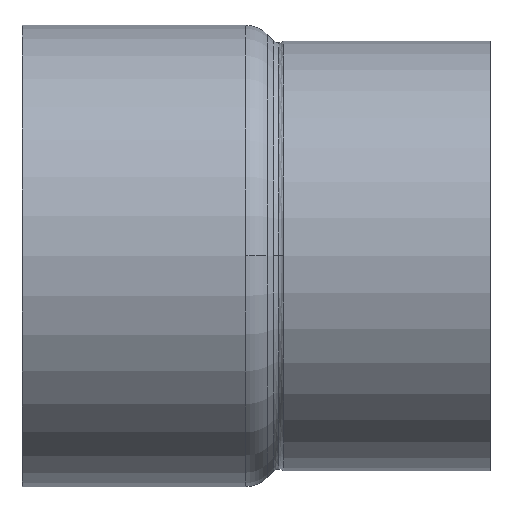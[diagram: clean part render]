
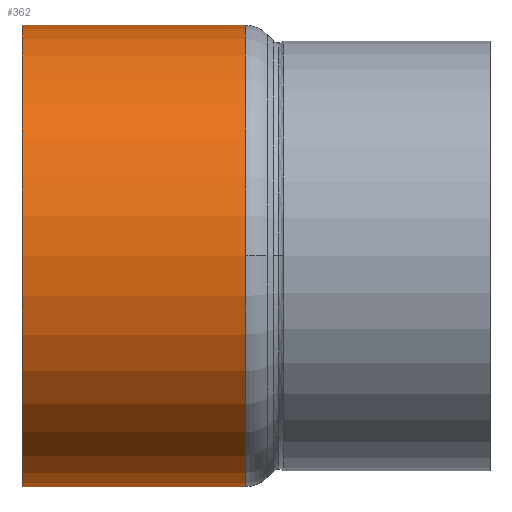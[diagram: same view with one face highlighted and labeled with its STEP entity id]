
A CAD part, top view. The second image highlights one B-rep face of the part: STEP entity #362.
In plain terms, the highlighted cylindrical face has radius 38.05 mm (diameter 76.1 mm), a partial arc.
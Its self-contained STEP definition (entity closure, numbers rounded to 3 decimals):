
#312=CARTESIAN_POINT('',(18.44,0.0,0.0));
#313=DIRECTION('',(1.0,0.0,0.0));
#314=DIRECTION('',(0.0,1.0,0.0));
#315=AXIS2_PLACEMENT_3D('',#312,#313,#314);
#316=CYLINDRICAL_SURFACE('',#315,38.05);
#317=CARTESIAN_POINT('',(0.,38.05,0.0));
#318=VERTEX_POINT('',#317);
#319=CARTESIAN_POINT('',(36.879,38.05,0.0));
#320=VERTEX_POINT('',#319);
#321=CARTESIAN_POINT('',(0.,38.05,0.0));
#322=DIRECTION('',(1.0,0.0,0.0));
#323=VECTOR('',#322,36.879);
#324=LINE('',#321,#323);
#325=EDGE_CURVE('',#318,#320,#324,.T.);
#326=ORIENTED_EDGE('',*,*,#325,.F.);
#327=CARTESIAN_POINT('',(0.,-38.05,0.));
#328=VERTEX_POINT('',#327);
#329=CARTESIAN_POINT('',(0.,0.0,0.0));
#330=DIRECTION('',(1.0,0.0,0.0));
#331=DIRECTION('',(0.0,1.0,0.0));
#332=AXIS2_PLACEMENT_3D('',#329,#330,#331);
#333=CIRCLE('',#332,38.05);
#334=EDGE_CURVE('',#318,#328,#333,.T.);
#335=ORIENTED_EDGE('',*,*,#334,.T.);
#336=CARTESIAN_POINT('',(36.879,-38.05,0.));
#337=VERTEX_POINT('',#336);
#338=CARTESIAN_POINT('',(36.879,-38.05,0.));
#339=DIRECTION('',(-1.0,0.0,0.0));
#340=VECTOR('',#339,36.879);
#341=LINE('',#338,#340);
#342=EDGE_CURVE('',#337,#328,#341,.T.);
#343=ORIENTED_EDGE('',*,*,#342,.F.);
#344=CARTESIAN_POINT('',(36.879,0.,38.05));
#345=VERTEX_POINT('',#344);
#346=CARTESIAN_POINT('',(36.879,0.0,0.0));
#347=DIRECTION('',(1.0,0.0,0.0));
#348=DIRECTION('',(0.0,1.0,0.0));
#349=AXIS2_PLACEMENT_3D('',#346,#347,#348);
#350=CIRCLE('',#349,38.05);
#351=EDGE_CURVE('',#345,#337,#350,.T.);
#352=ORIENTED_EDGE('',*,*,#351,.F.);
#353=CARTESIAN_POINT('',(36.879,0.0,0.0));
#354=DIRECTION('',(1.0,0.0,0.0));
#355=DIRECTION('',(0.0,1.0,0.0));
#356=AXIS2_PLACEMENT_3D('',#353,#354,#355);
#357=CIRCLE('',#356,38.05);
#358=EDGE_CURVE('',#320,#345,#357,.T.);
#359=ORIENTED_EDGE('',*,*,#358,.F.);
#360=EDGE_LOOP('',(#326,#335,#343,#352,#359));
#361=FACE_OUTER_BOUND('',#360,.T.);
#362=ADVANCED_FACE('',(#361),#316,.T.);
